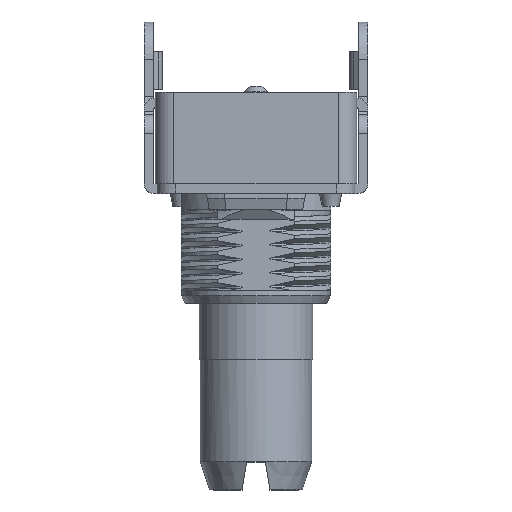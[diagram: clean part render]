
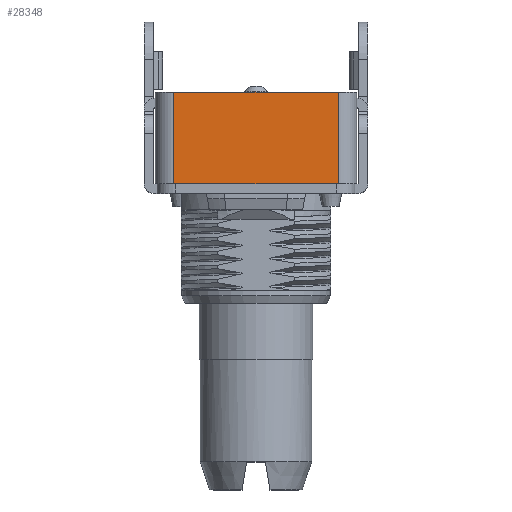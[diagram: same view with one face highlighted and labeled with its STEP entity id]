
A CAD part, top view. The second image highlights one B-rep face of the part: STEP entity #28348.
In plain terms, the highlighted planar face has unit normal (0, 0, 1).
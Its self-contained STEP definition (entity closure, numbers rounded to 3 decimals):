
#1348 = VECTOR ( 'NONE', #19627, 1000. ) ;
#2138 = CARTESIAN_POINT ( 'NONE',  ( -4.4, 6.3, 16.7 ) ) ;
#2302 = LINE ( 'NONE', #25015, #1348 ) ;
#3049 = PLANE ( 'NONE',  #28655 ) ;
#3941 = VERTEX_POINT ( 'NONE', #2138 ) ;
#4220 = CARTESIAN_POINT ( 'NONE',  ( 4.4, 1.4, 16.7 ) ) ;
#4497 = EDGE_LOOP ( 'NONE', ( #21899, #24704, #5846, #20508 ) ) ;
#4705 = FACE_OUTER_BOUND ( 'NONE', #4497, .T. ) ;
#4886 = VERTEX_POINT ( 'NONE', #24790 ) ;
#5846 = ORIENTED_EDGE ( 'NONE', *, *, #16369, .F. ) ;
#7800 = LINE ( 'NONE', #23614, #15072 ) ;
#8034 = VECTOR ( 'NONE', #16269, 1000. ) ;
#8227 = DIRECTION ( 'NONE',  ( -1., 0., 0. ) ) ;
#8875 = VECTOR ( 'NONE', #33626, 1000. ) ;
#13159 = CARTESIAN_POINT ( 'NONE',  ( 4.4, 6.3, 16.7 ) ) ;
#15072 = VECTOR ( 'NONE', #8227, 1000. ) ;
#15522 = CARTESIAN_POINT ( 'NONE',  ( -4.4, 6.3, 16.7 ) ) ;
#16269 = DIRECTION ( 'NONE',  ( 0., -1., 0. ) ) ;
#16369 = EDGE_CURVE ( 'NONE', #29559, #16547, #39839, .T. ) ;
#16547 = VERTEX_POINT ( 'NONE', #4220 ) ;
#18626 = DIRECTION ( 'NONE',  ( -1., 0., 0. ) ) ;
#19627 = DIRECTION ( 'NONE',  ( 0., -1., 0. ) ) ;
#19728 = EDGE_CURVE ( 'NONE', #3941, #4886, #2302, .T. ) ;
#20508 = ORIENTED_EDGE ( 'NONE', *, *, #33669, .T. ) ;
#21899 = ORIENTED_EDGE ( 'NONE', *, *, #19728, .T. ) ;
#23322 = CARTESIAN_POINT ( 'NONE',  ( 4.4, 6.3, 16.7 ) ) ;
#23614 = CARTESIAN_POINT ( 'NONE',  ( 4.4, 1.4, 16.7 ) ) ;
#24704 = ORIENTED_EDGE ( 'NONE', *, *, #30794, .F. ) ;
#24790 = CARTESIAN_POINT ( 'NONE',  ( -4.4, 1.4, 16.7 ) ) ;
#25015 = CARTESIAN_POINT ( 'NONE',  ( -4.4, 6.3, 16.7 ) ) ;
#25308 = LINE ( 'NONE', #30366, #8875 ) ;
#28348 = ADVANCED_FACE ( 'NONE', ( #4705 ), #3049, .T. ) ;
#28655 = AXIS2_PLACEMENT_3D ( 'NONE', #15522, #37067, #18626 ) ;
#29559 = VERTEX_POINT ( 'NONE', #23322 ) ;
#30366 = CARTESIAN_POINT ( 'NONE',  ( -4.4, 6.3, 16.7 ) ) ;
#30794 = EDGE_CURVE ( 'NONE', #16547, #4886, #7800, .T. ) ;
#33626 = DIRECTION ( 'NONE',  ( -1., 0., 0. ) ) ;
#33669 = EDGE_CURVE ( 'NONE', #29559, #3941, #25308, .T. ) ;
#37067 = DIRECTION ( 'NONE',  ( 0., 0., 1. ) ) ;
#39839 = LINE ( 'NONE', #13159, #8034 ) ;
